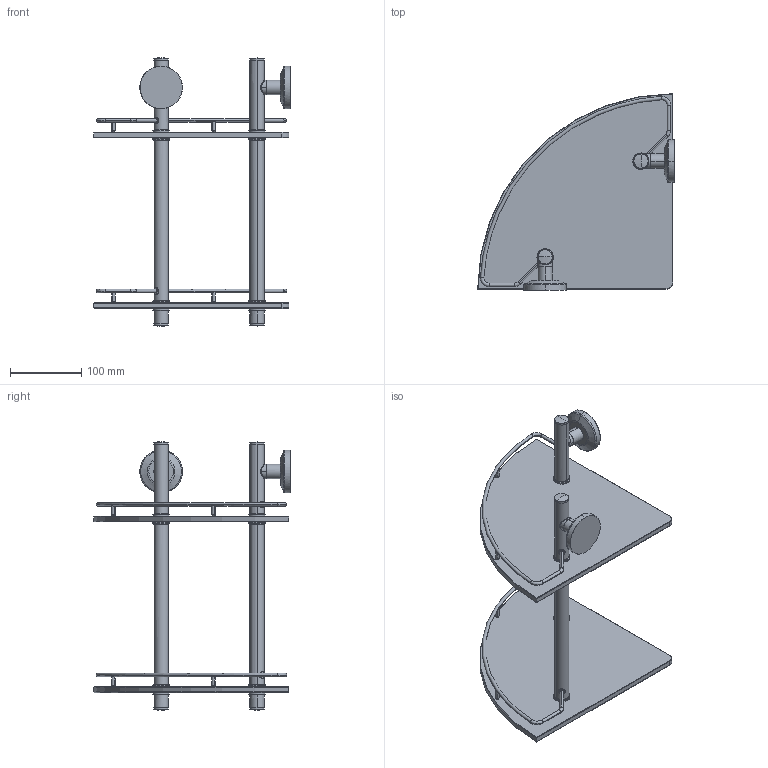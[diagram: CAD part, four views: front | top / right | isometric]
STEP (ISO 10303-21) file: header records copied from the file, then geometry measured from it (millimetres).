
FILE_DESCRIPTION(('THIS FILE CONTAINS SOME STEP INSTANCES'),'1');
FILE_NAME('sta_072.stp','2015-12-09T13:46:32',('UNDEFINED'),('UNDEFINED'),'T-FLEX CAD STEP converter','T-FLEX CAD','');
FILE_SCHEMA(('CONFIG_CONTROL_DESIGN'));
Length unit declared in the file: metre
Products named in the file (6): 砱鋋_41; 砱鋋_42; 砱鋋_44
Bounding box: 276.9 x 276.9 x 378.4 mm (x, y, z)
Volume: 1284131.2 mm3; surface area: 340902.8 mm2
Topology: 6 solids, 10 shells, 361 faces, 847 edges, 511 vertices
Faces by surface type: cylinder 136, plane 61, bspline 56, cone 52, torus 48, sphere 8
Entity records: 26949 total; most frequent: CARTESIAN_POINT 20278, ORIENTED_EDGE 1646, DIRECTION 964, EDGE_CURVE 823, VERTEX_POINT 511, EDGE_LOOP 398, AXIS2_PLACEMENT_3D 380, ADVANCED_FACE 361
